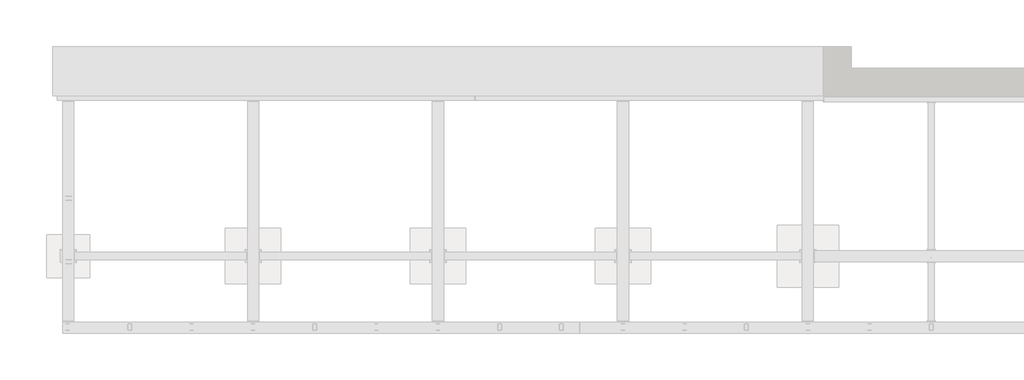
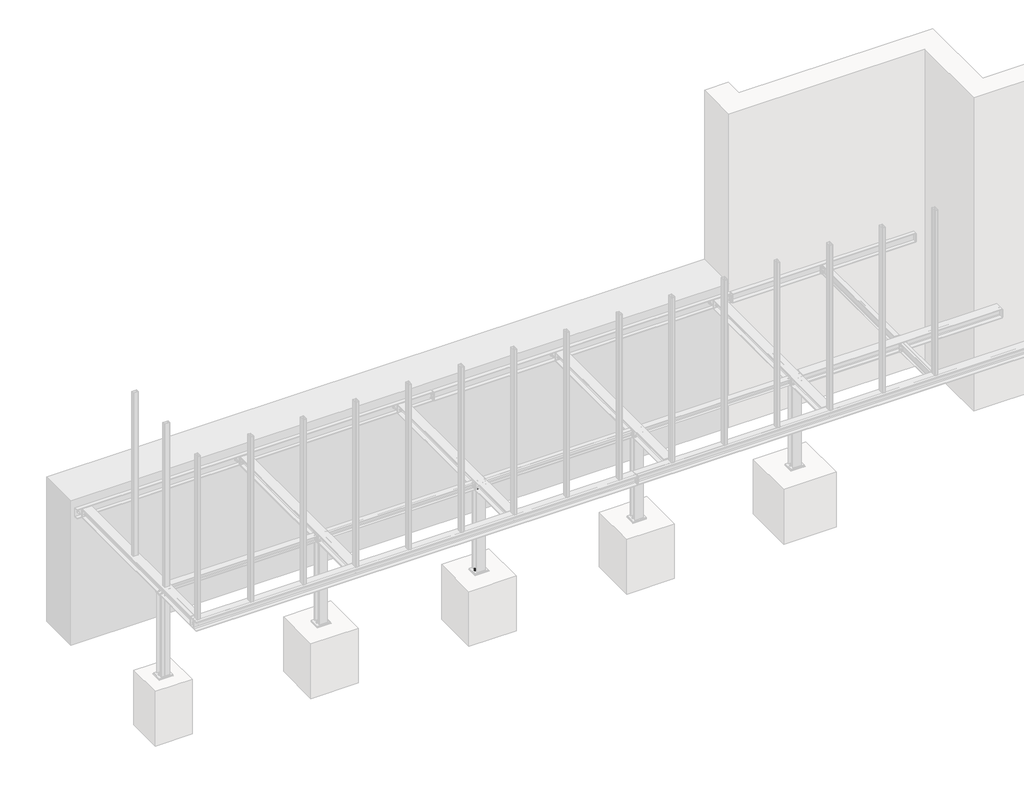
# One storey, part 22 of 31: 7 assemblies.
"""IFC4 building model written with IfcOpenShell, lengths in millimetres."""

from ifc_helpers import new_model, si_unit, point, frame, frame_2d, origin, place, context, project, spatial, polyline, circle_curve, trimmed, segment, composite_curve, outline, extrude, faceted_brep, element, save

model = new_model("IFC4")

# Units and contexts
model_context = context("Model", 3, world=origin())
ifc_project = project(units=[si_unit("LENGTHUNIT", "METRE", prefix="MILLI")], contexts=[model_context])

# Site, building, storey
site = spatial("IfcSite", under=ifc_project)
building = spatial("IfcBuilding", under=site)
storey = spatial("IfcBuildingStorey", under=building, Name="Základy", Elevation=-1200.0)

# Assemblies
placement = place(None, origin())
element("IfcElementAssembly", 1, at=placement, inside=storey, context=model_context, shape_type="SweptSolid", body=[
    extrude(outline(composite_curve([segment(polyline([(9073.6, 60.0), (9026.4, 60.0)]), True, "CONTINUOUS"), segment(trimmed(circle_curve(frame_2d((9026.4, 66.4)), 6.4), [point((9026.4, 60.0))], [point((9020.0, 66.4))], False, "CARTESIAN"), True, "CONTINUOUS"), segment(polyline([(9020.0, 66.4), (9020.0, 153.6)]), True, "CONTINUOUS"), segment(trimmed(circle_curve(frame_2d((9026.4, 153.6)), 6.4), [point((9020.0, 153.6))], [point((9026.4, 160.0))], False, "CARTESIAN"), True, "CONTINUOUS"), segment(polyline([(9026.4, 160.0), (9073.6, 160.0)]), True, "CONTINUOUS"), segment(trimmed(circle_curve(frame_2d((9073.6, 153.6)), 6.4), [point((9073.6, 160.0))], [point((9080.0, 153.6))], False, "CARTESIAN"), True, "CONTINUOUS"), segment(polyline([(9080.0, 153.6), (9080.0, 66.4)]), True, "CONTINUOUS"), segment(trimmed(circle_curve(frame_2d((9073.6, 66.4)), 6.4), [point((9080.0, 66.4))], [point((9073.6, 60.0))], False, "CARTESIAN"), True, "CONTINUOUS")], self_intersect=False), holes=[composite_curve([segment(trimmed(circle_curve(frame_2d((9073.6, 66.4)), 3.2), [point((9073.6, 63.2))], [point((9076.8, 66.4))], True, "CARTESIAN"), True, "CONTINUOUS"), segment(polyline([(9076.8, 66.4), (9076.8, 153.6)]), True, "CONTINUOUS"), segment(trimmed(circle_curve(frame_2d((9073.6, 153.6)), 3.2), [point((9076.8, 153.6))], [point((9073.6, 156.8))], True, "CARTESIAN"), True, "CONTINUOUS"), segment(polyline([(9073.6, 156.8), (9026.4, 156.8)]), True, "CONTINUOUS"), segment(trimmed(circle_curve(frame_2d((9026.4, 153.6)), 3.2), [point((9026.4, 156.8))], [point((9023.2, 153.6))], True, "CARTESIAN"), True, "CONTINUOUS"), segment(polyline([(9023.2, 153.6), (9023.2, 66.4)]), True, "CONTINUOUS"), segment(trimmed(circle_curve(frame_2d((9026.4, 66.4)), 3.2), [point((9023.2, 66.4))], [point((9026.4, 63.2))], True, "CARTESIAN"), True, "CONTINUOUS"), segment(polyline([(9026.4, 63.2), (9073.6, 63.2)]), True, "CONTINUOUS")], self_intersect=False)]), frame((0.0, 0.0, -160.0), z_axis=(0.0, 0.0, 1.0), x_axis=(1.0, 0.0, 0.0)), (0.0, 0.0, 1.0), 3320.0),
])
element("IfcElementAssembly", 2, at=placement, inside=storey, context=model_context, shape_type="SweptSolid", body=[
    extrude(outline(polyline([(12300.0, 3860.0), (-200.0, 3860.0), (-200.0, 4660.0), (12300.0, 4660.0), (12300.0, 3860.0)])), frame((0.0, 0.0, -2900.0), z_axis=(0.0, 0.0, 1.0), x_axis=(1.0, 0.0, 0.0)), (0.0, 0.0, 1.0), 2900.0),
])
element("IfcElementAssembly", 3, at=placement, inside=storey, context=model_context, shape_type="SweptSolid", body=[
    extrude(outline(composite_curve([segment(polyline([(8073.6, 60.0), (8026.4, 60.0)]), True, "CONTINUOUS"), segment(trimmed(circle_curve(frame_2d((8026.4, 66.4)), 6.4), [point((8026.4, 60.0))], [point((8020.0, 66.4))], False, "CARTESIAN"), True, "CONTINUOUS"), segment(polyline([(8020.0, 66.4), (8020.0, 153.6)]), True, "CONTINUOUS"), segment(trimmed(circle_curve(frame_2d((8026.4, 153.6)), 6.4), [point((8020.0, 153.6))], [point((8026.4, 160.0))], False, "CARTESIAN"), True, "CONTINUOUS"), segment(polyline([(8026.4, 160.0), (8073.6, 160.0)]), True, "CONTINUOUS"), segment(trimmed(circle_curve(frame_2d((8073.6, 153.6)), 6.4), [point((8073.6, 160.0))], [point((8080.0, 153.6))], False, "CARTESIAN"), True, "CONTINUOUS"), segment(polyline([(8080.0, 153.6), (8080.0, 66.4)]), True, "CONTINUOUS"), segment(trimmed(circle_curve(frame_2d((8073.6, 66.4)), 6.4), [point((8080.0, 66.4))], [point((8073.6, 60.0))], False, "CARTESIAN"), True, "CONTINUOUS")], self_intersect=False), holes=[composite_curve([segment(trimmed(circle_curve(frame_2d((8073.6, 66.4)), 3.2), [point((8073.6, 63.2))], [point((8076.8, 66.4))], True, "CARTESIAN"), True, "CONTINUOUS"), segment(polyline([(8076.8, 66.4), (8076.8, 153.6)]), True, "CONTINUOUS"), segment(trimmed(circle_curve(frame_2d((8073.6, 153.6)), 3.2), [point((8076.8, 153.6))], [point((8073.6, 156.8))], True, "CARTESIAN"), True, "CONTINUOUS"), segment(polyline([(8073.6, 156.8), (8026.4, 156.8)]), True, "CONTINUOUS"), segment(trimmed(circle_curve(frame_2d((8026.4, 153.6)), 3.2), [point((8026.4, 156.8))], [point((8023.2, 153.6))], True, "CARTESIAN"), True, "CONTINUOUS"), segment(polyline([(8023.2, 153.6), (8023.2, 66.4)]), True, "CONTINUOUS"), segment(trimmed(circle_curve(frame_2d((8026.4, 66.4)), 3.2), [point((8023.2, 66.4))], [point((8026.4, 63.2))], True, "CARTESIAN"), True, "CONTINUOUS"), segment(polyline([(8026.4, 63.2), (8073.6, 63.2)]), True, "CONTINUOUS")], self_intersect=False)]), frame((0.0, 0.0, -160.0), z_axis=(0.0, 0.0, 1.0), x_axis=(1.0, 0.0, 0.0)), (0.0, 0.0, 1.0), 3320.0),
])
element("IfcElementAssembly", 4, at=placement, inside=storey, context=model_context, shape_type="SweptSolid", body=[
    extrude(outline(composite_curve([segment(polyline([(1200.0, -193.0), (1320.0, -193.0), (1320.0, -201.0), (1274.5, -201.0)]), True, "CONTINUOUS"), segment(trimmed(circle_curve(frame_2d((1274.5, -213.0)), 12.0), [point((1274.5, -201.0))], [point((1262.5, -213.0))], True, "CARTESIAN"), True, "CONTINUOUS"), segment(polyline([(1262.5, -213.0), (1262.5, -287.0)]), True, "CONTINUOUS"), segment(trimmed(circle_curve(frame_2d((1274.5, -287.0)), 12.0), [point((1262.5, -287.0))], [point((1274.5, -299.0))], True, "CARTESIAN"), True, "CONTINUOUS"), segment(polyline([(1274.5, -299.0), (1320.0, -299.0), (1320.0, -307.0), (1200.0, -307.0), (1200.0, -299.0), (1245.5, -299.0)]), True, "CONTINUOUS"), segment(trimmed(circle_curve(frame_2d((1245.5, -287.0)), 12.0), [point((1245.5, -299.0))], [point((1257.5, -287.0))], True, "CARTESIAN"), True, "CONTINUOUS"), segment(polyline([(1257.5, -287.0), (1257.5, -213.0)]), True, "CONTINUOUS"), segment(trimmed(circle_curve(frame_2d((1245.5, -213.0)), 12.0), [point((1257.5, -213.0))], [point((1245.5, -201.0))], True, "CARTESIAN"), True, "CONTINUOUS"), segment(polyline([(1245.5, -201.0), (1200.0, -201.0), (1200.0, -193.0)]), True, "CONTINUOUS")], self_intersect=False)), frame((6160.0, 0.0, 0.0), z_axis=(1.0, 0.0, 0.0), x_axis=(0.0, 1.0, 0.0)), (0.0, 0.0, 1.0), 2780.0),
    extrude(outline(polyline([(8940.0, 1200.0), (8940.0, 1320.0), (8950.0, 1320.0), (8950.0, 1200.0), (8940.0, 1200.0)])), frame((0.0, 0.0, -299.0), z_axis=(0.0, 0.0, 1.0), x_axis=(1.0, 0.0, 0.0)), (0.0, 0.0, 1.0), 98.0),
    extrude(outline(polyline([(6150.0, 1200.0), (6150.0, 1320.0), (6160.0, 1320.0), (6160.0, 1200.0), (6150.0, 1200.0)])), frame((0.0, 0.0, -299.0), z_axis=(0.0, 0.0, 1.0), x_axis=(1.0, 0.0, 0.0)), (0.0, 0.0, 1.0), 98.0),
])
element("IfcElementAssembly", 5, at=placement, inside=storey, context=model_context, shape_type="SweptSolid", body=[
    extrude(outline(composite_curve([segment(polyline([(6130.0, 1184.0), (5970.0, 1184.0), (5970.0, 1193.0), (6032.0, 1193.0)]), True, "CONTINUOUS"), segment(trimmed(circle_curve(frame_2d((6032.0, 1208.0)), 15.0), [point((6032.0, 1193.0))], [point((6047.0, 1208.0))], True, "CARTESIAN"), True, "CONTINUOUS"), segment(polyline([(6047.0, 1208.0), (6047.0, 1312.0)]), True, "CONTINUOUS"), segment(trimmed(circle_curve(frame_2d((6032.0, 1312.0)), 15.0), [point((6047.0, 1312.0))], [point((6032.0, 1327.0))], True, "CARTESIAN"), True, "CONTINUOUS"), segment(polyline([(6032.0, 1327.0), (5970.0, 1327.0), (5970.0, 1336.0), (6130.0, 1336.0), (6130.0, 1327.0), (6068.0, 1327.0)]), True, "CONTINUOUS"), segment(trimmed(circle_curve(frame_2d((6068.0, 1312.0)), 15.0), [point((6068.0, 1327.0))], [point((6053.0, 1312.0))], True, "CARTESIAN"), True, "CONTINUOUS"), segment(polyline([(6053.0, 1312.0), (6053.0, 1208.0)]), True, "CONTINUOUS"), segment(trimmed(circle_curve(frame_2d((6068.0, 1208.0)), 15.0), [point((6053.0, 1208.0))], [point((6068.0, 1193.0))], True, "CARTESIAN"), True, "CONTINUOUS"), segment(polyline([(6068.0, 1193.0), (6130.0, 1193.0), (6130.0, 1184.0)]), True, "CONTINUOUS")], self_intersect=False)), frame((0.0, 0.0, -1975.0), z_axis=(0.0, 0.0, 1.0), x_axis=(1.0, 0.0, 0.0)), (0.0, 0.0, 1.0), 1625.0),
    extrude(outline(polyline([(6175.0, 1356.0), (6175.0, 1164.0), (5925.0, 1164.0), (5925.0, 1356.0), (6175.0, 1356.0)])), frame((0.0, 0.0, -1990.0), z_axis=(0.0, 0.0, 1.0), x_axis=(1.0, 0.0, 0.0)), (0.0, 0.0, 1.0), 15.0),
    extrude(outline(polyline([(6140.0, 1346.0), (6140.0, 1174.0), (5960.0, 1174.0), (5960.0, 1346.0), (6140.0, 1346.0)])), frame((0.0, 0.0, -350.0), z_axis=(0.0, 0.0, 1.0), x_axis=(1.0, 0.0, 0.0)), (0.0, 0.0, 1.0), 10.0),
    extrude(outline(polyline([(5982.7364934, 1260.0), (5978.8682467, 1253.3000002), (5971.1317533, 1253.3000002), (5967.2635066, 1260.0), (5971.1317533, 1266.6999998), (5978.8682467, 1266.6999998), (5982.7364934, 1260.0)])), frame((0.0, 0.0, -2122.0), z_axis=(0.0, 0.0, 1.0), x_axis=(1.0, 0.0, 0.0)), (0.0, 0.0, 1.0), 132.0),
    extrude(outline(composite_curve([segment(trimmed(circle_curve(frame_2d((5975.0, 1260.0)), 8.0), [point((5983.0, 1260.0))], [point((5967.0, 1260.0))], False, "CARTESIAN"), True, "CONTINUOUS"), segment(trimmed(circle_curve(frame_2d((5975.0, 1260.0)), 8.0), [point((5967.0, 1260.0))], [point((5983.0, 1260.0))], False, "CARTESIAN"), True, "CONTINUOUS")], self_intersect=False)), frame((0.0, 0.0, -1990.0), z_axis=(0.0, 0.0, 1.0), x_axis=(1.0, 0.0, 0.0)), (0.0, 0.0, 1.0), 58.0),
    extrude(outline(composite_curve([segment(trimmed(circle_curve(frame_2d((5975.0, 1260.0)), 15.0), [point((5990.0, 1260.0))], [point((5960.0, 1260.0))], False, "CARTESIAN"), True, "CONTINUOUS"), segment(trimmed(circle_curve(frame_2d((5975.0, 1260.0)), 15.0), [point((5960.0, 1260.0))], [point((5990.0, 1260.0))], False, "CARTESIAN"), True, "CONTINUOUS")], self_intersect=False)), frame((0.0, 0.0, -1975.0), z_axis=(0.0, 0.0, 1.0), x_axis=(1.0, 0.0, 0.0)), (0.0, 0.0, 1.0), 3.0),
    extrude(outline(polyline([(5990.4441197, 1260.0), (5982.7220599, 1246.625), (5967.2779401, 1246.625), (5959.5558803, 1260.0), (5967.2779401, 1273.375), (5982.7220599, 1273.375), (5990.4441197, 1260.0)])), frame((0.0, 0.0, -1972.0), z_axis=(0.0, 0.0, 1.0), x_axis=(1.0, 0.0, 0.0)), (0.0, 0.0, 1.0), 13.0),
    extrude(outline(composite_curve([segment(trimmed(circle_curve(frame_2d((5975.0, 1260.0)), 9.0), [point((5984.0, 1260.0))], [point((5966.0, 1260.0))], False, "CARTESIAN"), True, "CONTINUOUS"), segment(trimmed(circle_curve(frame_2d((5975.0, 1260.0)), 9.0), [point((5966.0, 1260.0))], [point((5984.0, 1260.0))], False, "CARTESIAN"), True, "CONTINUOUS")], self_intersect=False)), frame((0.0, 0.0, -1990.0), z_axis=(0.0, 0.0, 1.0), x_axis=(1.0, 0.0, 0.0)), (0.0, 0.0, 1.0), 15.1),
    extrude(outline(polyline([(6132.7364934, 1260.0), (6128.8682467, 1253.3000002), (6121.1317533, 1253.3000002), (6117.2635066, 1260.0), (6121.1317533, 1266.6999998), (6128.8682467, 1266.6999998), (6132.7364934, 1260.0)])), frame((0.0, 0.0, -2122.0), z_axis=(0.0, 0.0, 1.0), x_axis=(1.0, 0.0, 0.0)), (0.0, 0.0, 1.0), 132.0),
    extrude(outline(composite_curve([segment(trimmed(circle_curve(frame_2d((6125.0, 1260.0)), 8.0), [point((6133.0, 1260.0))], [point((6117.0, 1260.0))], False, "CARTESIAN"), True, "CONTINUOUS"), segment(trimmed(circle_curve(frame_2d((6125.0, 1260.0)), 8.0), [point((6117.0, 1260.0))], [point((6133.0, 1260.0))], False, "CARTESIAN"), True, "CONTINUOUS")], self_intersect=False)), frame((0.0, 0.0, -1990.0), z_axis=(0.0, 0.0, 1.0), x_axis=(1.0, 0.0, 0.0)), (0.0, 0.0, 1.0), 58.0),
    extrude(outline(composite_curve([segment(trimmed(circle_curve(frame_2d((6125.0, 1260.0)), 15.0), [point((6140.0, 1260.0))], [point((6110.0, 1260.0))], False, "CARTESIAN"), True, "CONTINUOUS"), segment(trimmed(circle_curve(frame_2d((6125.0, 1260.0)), 15.0), [point((6110.0, 1260.0))], [point((6140.0, 1260.0))], False, "CARTESIAN"), True, "CONTINUOUS")], self_intersect=False)), frame((0.0, 0.0, -1975.0), z_axis=(0.0, 0.0, 1.0), x_axis=(1.0, 0.0, 0.0)), (0.0, 0.0, 1.0), 3.0),
    extrude(outline(polyline([(6140.4441197, 1260.0), (6132.7220599, 1246.625), (6117.2779401, 1246.625), (6109.5558803, 1260.0), (6117.2779401, 1273.375), (6132.7220599, 1273.375), (6140.4441197, 1260.0)])), frame((0.0, 0.0, -1972.0), z_axis=(0.0, 0.0, 1.0), x_axis=(1.0, 0.0, 0.0)), (0.0, 0.0, 1.0), 13.0),
    extrude(outline(composite_curve([segment(trimmed(circle_curve(frame_2d((6125.0, 1260.0)), 9.0), [point((6134.0, 1260.0))], [point((6116.0, 1260.0))], False, "CARTESIAN"), True, "CONTINUOUS"), segment(trimmed(circle_curve(frame_2d((6125.0, 1260.0)), 9.0), [point((6116.0, 1260.0))], [point((6134.0, 1260.0))], False, "CARTESIAN"), True, "CONTINUOUS")], self_intersect=False)), frame((0.0, 0.0, -1990.0), z_axis=(0.0, 0.0, 1.0), x_axis=(1.0, 0.0, 0.0)), (0.0, 0.0, 1.0), 15.1),
    extrude(outline(composite_curve([segment(trimmed(circle_curve(frame_2d((6000.0, 1220.0)), 6.5), [point((6006.5, 1220.0))], [point((5993.5, 1220.0))], False, "CARTESIAN"), True, "CONTINUOUS"), segment(trimmed(circle_curve(frame_2d((6000.0, 1220.0)), 6.5), [point((5993.5, 1220.0))], [point((6006.5, 1220.0))], False, "CARTESIAN"), True, "CONTINUOUS")], self_intersect=False)), frame((0.0, 0.0, -350.0), z_axis=(0.0, 0.0, 1.0), x_axis=(1.0, 0.0, 0.0)), (0.0, 0.0, 1.0), 10.1),
    extrude(outline(polyline([(6010.3923048, 1220.0), (6005.1961524, 1211.0), (5994.8038476, 1211.0), (5989.6076952, 1220.0), (5994.8038476, 1229.0), (6005.1961524, 1229.0), (6010.3923048, 1220.0)])), frame((0.0, 0.0, -323.5), z_axis=(0.0, 0.0, 1.0), x_axis=(1.0, 0.0, 0.0)), (0.0, 0.0, 1.0), 7.5),
    extrude(outline(composite_curve([segment(trimmed(circle_curve(frame_2d((6000.0, 1220.0)), 6.0), [point((6006.0, 1220.0))], [point((5994.0, 1220.0))], False, "CARTESIAN"), True, "CONTINUOUS"), segment(trimmed(circle_curve(frame_2d((6000.0, 1220.0)), 6.0), [point((5994.0, 1220.0))], [point((6006.0, 1220.0))], False, "CARTESIAN"), True, "CONTINUOUS")], self_intersect=False)), frame((0.0, 0.0, -368.5), z_axis=(0.0, 0.0, 1.0), x_axis=(1.0, 0.0, 0.0)), (0.0, 0.0, 1.0), 45.0),
    extrude(outline(composite_curve([segment(trimmed(circle_curve(frame_2d((6000.0, 1220.0)), 12.0), [point((6012.0, 1220.0))], [point((5988.0, 1220.0))], False, "CARTESIAN"), True, "CONTINUOUS"), segment(trimmed(circle_curve(frame_2d((6000.0, 1220.0)), 12.0), [point((5988.0, 1220.0))], [point((6012.0, 1220.0))], False, "CARTESIAN"), True, "CONTINUOUS")], self_intersect=False)), frame((0.0, 0.0, -326.0), z_axis=(0.0, 0.0, 1.0), x_axis=(1.0, 0.0, 0.0)), (0.0, 0.0, 1.0), 2.5),
    extrude(outline(composite_curve([segment(trimmed(circle_curve(frame_2d((6000.0, 1220.0)), 12.0), [point((6012.0, 1220.0))], [point((5988.0, 1220.0))], False, "CARTESIAN"), True, "CONTINUOUS"), segment(trimmed(circle_curve(frame_2d((6000.0, 1220.0)), 12.0), [point((5988.0, 1220.0))], [point((6012.0, 1220.0))], False, "CARTESIAN"), True, "CONTINUOUS")], self_intersect=False)), frame((0.0, 0.0, -352.5), z_axis=(0.0, 0.0, 1.0), x_axis=(1.0, 0.0, 0.0)), (0.0, 0.0, 1.0), 2.5),
    extrude(outline(polyline([(6010.9696551, 1220.0), (6005.4848276, 1210.5), (5994.5151724, 1210.5), (5989.0303449, 1220.0), (5994.5151724, 1229.5), (6005.4848276, 1229.5), (6010.9696551, 1220.0)])), frame((0.0, 0.0, -362.5), z_axis=(0.0, 0.0, 1.0), x_axis=(1.0, 0.0, 0.0)), (0.0, 0.0, 1.0), 10.0),
    extrude(outline(composite_curve([segment(trimmed(circle_curve(frame_2d((6000.0, 1220.0)), 6.5), [point((6006.5, 1220.0))], [point((5993.5, 1220.0))], False, "CARTESIAN"), True, "CONTINUOUS"), segment(trimmed(circle_curve(frame_2d((6000.0, 1220.0)), 6.5), [point((5993.5, 1220.0))], [point((6006.5, 1220.0))], False, "CARTESIAN"), True, "CONTINUOUS")], self_intersect=False)), frame((0.0, 0.0, -340.1), z_axis=(0.0, 0.0, 1.0), x_axis=(1.0, 0.0, 0.0)), (0.0, 0.0, 1.0), 14.0),
    extrude(outline(composite_curve([segment(trimmed(circle_curve(frame_2d((6100.0, 1220.0)), 6.5), [point((6106.5, 1220.0))], [point((6093.5, 1220.0))], False, "CARTESIAN"), True, "CONTINUOUS"), segment(trimmed(circle_curve(frame_2d((6100.0, 1220.0)), 6.5), [point((6093.5, 1220.0))], [point((6106.5, 1220.0))], False, "CARTESIAN"), True, "CONTINUOUS")], self_intersect=False)), frame((0.0, 0.0, -350.0), z_axis=(0.0, 0.0, 1.0), x_axis=(1.0, 0.0, 0.0)), (0.0, 0.0, 1.0), 10.1),
    extrude(outline(polyline([(6110.3923048, 1220.0), (6105.1961524, 1211.0), (6094.8038476, 1211.0), (6089.6076952, 1220.0), (6094.8038476, 1229.0), (6105.1961524, 1229.0), (6110.3923048, 1220.0)])), frame((0.0, 0.0, -323.5), z_axis=(0.0, 0.0, 1.0), x_axis=(1.0, 0.0, 0.0)), (0.0, 0.0, 1.0), 7.5),
    extrude(outline(composite_curve([segment(trimmed(circle_curve(frame_2d((6100.0, 1220.0)), 6.0), [point((6106.0, 1220.0))], [point((6094.0, 1220.0))], False, "CARTESIAN"), True, "CONTINUOUS"), segment(trimmed(circle_curve(frame_2d((6100.0, 1220.0)), 6.0), [point((6094.0, 1220.0))], [point((6106.0, 1220.0))], False, "CARTESIAN"), True, "CONTINUOUS")], self_intersect=False)), frame((0.0, 0.0, -368.5), z_axis=(0.0, 0.0, 1.0), x_axis=(1.0, 0.0, 0.0)), (0.0, 0.0, 1.0), 45.0),
    extrude(outline(composite_curve([segment(trimmed(circle_curve(frame_2d((6100.0, 1220.0)), 12.0), [point((6112.0, 1220.0))], [point((6088.0, 1220.0))], False, "CARTESIAN"), True, "CONTINUOUS"), segment(trimmed(circle_curve(frame_2d((6100.0, 1220.0)), 12.0), [point((6088.0, 1220.0))], [point((6112.0, 1220.0))], False, "CARTESIAN"), True, "CONTINUOUS")], self_intersect=False)), frame((0.0, 0.0, -326.0), z_axis=(0.0, 0.0, 1.0), x_axis=(1.0, 0.0, 0.0)), (0.0, 0.0, 1.0), 2.5),
    extrude(outline(composite_curve([segment(trimmed(circle_curve(frame_2d((6100.0, 1220.0)), 12.0), [point((6112.0, 1220.0))], [point((6088.0, 1220.0))], False, "CARTESIAN"), True, "CONTINUOUS"), segment(trimmed(circle_curve(frame_2d((6100.0, 1220.0)), 12.0), [point((6088.0, 1220.0))], [point((6112.0, 1220.0))], False, "CARTESIAN"), True, "CONTINUOUS")], self_intersect=False)), frame((0.0, 0.0, -352.5), z_axis=(0.0, 0.0, 1.0), x_axis=(1.0, 0.0, 0.0)), (0.0, 0.0, 1.0), 2.5),
    extrude(outline(polyline([(6110.9696551, 1220.0), (6105.4848276, 1210.5), (6094.5151724, 1210.5), (6089.0303449, 1220.0), (6094.5151724, 1229.5), (6105.4848276, 1229.5), (6110.9696551, 1220.0)])), frame((0.0, 0.0, -362.5), z_axis=(0.0, 0.0, 1.0), x_axis=(1.0, 0.0, 0.0)), (0.0, 0.0, 1.0), 10.0),
    extrude(outline(composite_curve([segment(trimmed(circle_curve(frame_2d((6100.0, 1220.0)), 6.5), [point((6106.5, 1220.0))], [point((6093.5, 1220.0))], False, "CARTESIAN"), True, "CONTINUOUS"), segment(trimmed(circle_curve(frame_2d((6100.0, 1220.0)), 6.5), [point((6093.5, 1220.0))], [point((6106.5, 1220.0))], False, "CARTESIAN"), True, "CONTINUOUS")], self_intersect=False)), frame((0.0, 0.0, -340.1), z_axis=(0.0, 0.0, 1.0), x_axis=(1.0, 0.0, 0.0)), (0.0, 0.0, 1.0), 14.0),
    extrude(outline(composite_curve([segment(trimmed(circle_curve(frame_2d((6000.0, 1300.0)), 6.5), [point((6006.5, 1300.0))], [point((5993.5, 1300.0))], False, "CARTESIAN"), True, "CONTINUOUS"), segment(trimmed(circle_curve(frame_2d((6000.0, 1300.0)), 6.5), [point((5993.5, 1300.0))], [point((6006.5, 1300.0))], False, "CARTESIAN"), True, "CONTINUOUS")], self_intersect=False)), frame((0.0, 0.0, -350.0), z_axis=(0.0, 0.0, 1.0), x_axis=(1.0, 0.0, 0.0)), (0.0, 0.0, 1.0), 10.1),
    extrude(outline(polyline([(6010.3923048, 1300.0), (6005.1961524, 1291.0), (5994.8038476, 1291.0), (5989.6076952, 1300.0), (5994.8038476, 1309.0), (6005.1961524, 1309.0), (6010.3923048, 1300.0)])), frame((0.0, 0.0, -323.5), z_axis=(0.0, 0.0, 1.0), x_axis=(1.0, 0.0, 0.0)), (0.0, 0.0, 1.0), 7.5),
    extrude(outline(composite_curve([segment(trimmed(circle_curve(frame_2d((6000.0, 1300.0)), 6.0), [point((6006.0, 1300.0))], [point((5994.0, 1300.0))], False, "CARTESIAN"), True, "CONTINUOUS"), segment(trimmed(circle_curve(frame_2d((6000.0, 1300.0)), 6.0), [point((5994.0, 1300.0))], [point((6006.0, 1300.0))], False, "CARTESIAN"), True, "CONTINUOUS")], self_intersect=False)), frame((0.0, 0.0, -368.5), z_axis=(0.0, 0.0, 1.0), x_axis=(1.0, 0.0, 0.0)), (0.0, 0.0, 1.0), 45.0),
    extrude(outline(composite_curve([segment(trimmed(circle_curve(frame_2d((6000.0, 1300.0)), 12.0), [point((6012.0, 1300.0))], [point((5988.0, 1300.0))], False, "CARTESIAN"), True, "CONTINUOUS"), segment(trimmed(circle_curve(frame_2d((6000.0, 1300.0)), 12.0), [point((5988.0, 1300.0))], [point((6012.0, 1300.0))], False, "CARTESIAN"), True, "CONTINUOUS")], self_intersect=False)), frame((0.0, 0.0, -326.0), z_axis=(0.0, 0.0, 1.0), x_axis=(1.0, 0.0, 0.0)), (0.0, 0.0, 1.0), 2.5),
    extrude(outline(composite_curve([segment(trimmed(circle_curve(frame_2d((6000.0, 1300.0)), 12.0), [point((6012.0, 1300.0))], [point((5988.0, 1300.0))], False, "CARTESIAN"), True, "CONTINUOUS"), segment(trimmed(circle_curve(frame_2d((6000.0, 1300.0)), 12.0), [point((5988.0, 1300.0))], [point((6012.0, 1300.0))], False, "CARTESIAN"), True, "CONTINUOUS")], self_intersect=False)), frame((0.0, 0.0, -352.5), z_axis=(0.0, 0.0, 1.0), x_axis=(1.0, 0.0, 0.0)), (0.0, 0.0, 1.0), 2.5),
    extrude(outline(polyline([(6010.9696551, 1300.0), (6005.4848276, 1290.5), (5994.5151724, 1290.5), (5989.0303449, 1300.0), (5994.5151724, 1309.5), (6005.4848276, 1309.5), (6010.9696551, 1300.0)])), frame((0.0, 0.0, -362.5), z_axis=(0.0, 0.0, 1.0), x_axis=(1.0, 0.0, 0.0)), (0.0, 0.0, 1.0), 10.0),
    extrude(outline(composite_curve([segment(trimmed(circle_curve(frame_2d((6000.0, 1300.0)), 6.5), [point((6006.5, 1300.0))], [point((5993.5, 1300.0))], False, "CARTESIAN"), True, "CONTINUOUS"), segment(trimmed(circle_curve(frame_2d((6000.0, 1300.0)), 6.5), [point((5993.5, 1300.0))], [point((6006.5, 1300.0))], False, "CARTESIAN"), True, "CONTINUOUS")], self_intersect=False)), frame((0.0, 0.0, -340.1), z_axis=(0.0, 0.0, 1.0), x_axis=(1.0, 0.0, 0.0)), (0.0, 0.0, 1.0), 14.0),
    extrude(outline(composite_curve([segment(trimmed(circle_curve(frame_2d((6100.0, 1300.0)), 6.5), [point((6106.5, 1300.0))], [point((6093.5, 1300.0))], False, "CARTESIAN"), True, "CONTINUOUS"), segment(trimmed(circle_curve(frame_2d((6100.0, 1300.0)), 6.5), [point((6093.5, 1300.0))], [point((6106.5, 1300.0))], False, "CARTESIAN"), True, "CONTINUOUS")], self_intersect=False)), frame((0.0, 0.0, -350.0), z_axis=(0.0, 0.0, 1.0), x_axis=(1.0, 0.0, 0.0)), (0.0, 0.0, 1.0), 10.1),
    extrude(outline(polyline([(6110.3923048, 1300.0), (6105.1961524, 1291.0), (6094.8038476, 1291.0), (6089.6076952, 1300.0), (6094.8038476, 1309.0), (6105.1961524, 1309.0), (6110.3923048, 1300.0)])), frame((0.0, 0.0, -323.5), z_axis=(0.0, 0.0, 1.0), x_axis=(1.0, 0.0, 0.0)), (0.0, 0.0, 1.0), 7.5),
    extrude(outline(composite_curve([segment(trimmed(circle_curve(frame_2d((6100.0, 1300.0)), 6.0), [point((6106.0, 1300.0))], [point((6094.0, 1300.0))], False, "CARTESIAN"), True, "CONTINUOUS"), segment(trimmed(circle_curve(frame_2d((6100.0, 1300.0)), 6.0), [point((6094.0, 1300.0))], [point((6106.0, 1300.0))], False, "CARTESIAN"), True, "CONTINUOUS")], self_intersect=False)), frame((0.0, 0.0, -368.5), z_axis=(0.0, 0.0, 1.0), x_axis=(1.0, 0.0, 0.0)), (0.0, 0.0, 1.0), 45.0),
    extrude(outline(composite_curve([segment(trimmed(circle_curve(frame_2d((6100.0, 1300.0)), 12.0), [point((6112.0, 1300.0))], [point((6088.0, 1300.0))], False, "CARTESIAN"), True, "CONTINUOUS"), segment(trimmed(circle_curve(frame_2d((6100.0, 1300.0)), 12.0), [point((6088.0, 1300.0))], [point((6112.0, 1300.0))], False, "CARTESIAN"), True, "CONTINUOUS")], self_intersect=False)), frame((0.0, 0.0, -326.0), z_axis=(0.0, 0.0, 1.0), x_axis=(1.0, 0.0, 0.0)), (0.0, 0.0, 1.0), 2.5),
    extrude(outline(composite_curve([segment(trimmed(circle_curve(frame_2d((6100.0, 1300.0)), 12.0), [point((6112.0, 1300.0))], [point((6088.0, 1300.0))], False, "CARTESIAN"), True, "CONTINUOUS"), segment(trimmed(circle_curve(frame_2d((6100.0, 1300.0)), 12.0), [point((6088.0, 1300.0))], [point((6112.0, 1300.0))], False, "CARTESIAN"), True, "CONTINUOUS")], self_intersect=False)), frame((0.0, 0.0, -352.5), z_axis=(0.0, 0.0, 1.0), x_axis=(1.0, 0.0, 0.0)), (0.0, 0.0, 1.0), 2.5),
    extrude(outline(polyline([(6110.9696551, 1300.0), (6105.4848276, 1290.5), (6094.5151724, 1290.5), (6089.0303449, 1300.0), (6094.5151724, 1309.5), (6105.4848276, 1309.5), (6110.9696551, 1300.0)])), frame((0.0, 0.0, -362.5), z_axis=(0.0, 0.0, 1.0), x_axis=(1.0, 0.0, 0.0)), (0.0, 0.0, 1.0), 10.0),
    extrude(outline(composite_curve([segment(trimmed(circle_curve(frame_2d((6100.0, 1300.0)), 6.5), [point((6106.5, 1300.0))], [point((6093.5, 1300.0))], False, "CARTESIAN"), True, "CONTINUOUS"), segment(trimmed(circle_curve(frame_2d((6100.0, 1300.0)), 6.5), [point((6093.5, 1300.0))], [point((6106.5, 1300.0))], False, "CARTESIAN"), True, "CONTINUOUS")], self_intersect=False)), frame((0.0, 0.0, -340.1), z_axis=(0.0, 0.0, 1.0), x_axis=(1.0, 0.0, 0.0)), (0.0, 0.0, 1.0), 14.0),
])
element("IfcElementAssembly", 6, at=placement, inside=storey, context=model_context, shape_type="SweptSolid", body=[
    extrude(outline(polyline([(6500.0, 1710.0), (6500.0, 810.0), (5600.0, 810.0), (5600.0, 1710.0), (6500.0, 1710.0)])), frame((0.0, 0.0, -3100.0), z_axis=(0.0, 0.0, 1.0), x_axis=(1.0, 0.0, 0.0)), (0.0, 0.0, 1.0), 1100.0),
])
element("IfcElementAssembly", 7, at=placement, inside=storey, context=model_context, shape_type="Brep", body=[
    faceted_brep([(5925.0, 1356.0, -1990.0), (5925.0, 1164.0, -1990.0), (6175.0, 1164.0, -1990.0), (6175.0, 1356.0, -1990.0), (6185.0, 1154.0, -2000.0), (5915.0, 1154.0, -2000.0), (5915.0, 1366.0, -2000.0), (6185.0, 1366.0, -2000.0)], [[[0, 1, 2, 3]], [[4, 5, 6, 7]], [[5, 4, 2, 1]], [[1, 0, 6, 5]], [[7, 6, 0, 3]], [[3, 2, 4, 7]]]),
])

save(model, "model.ifc")
